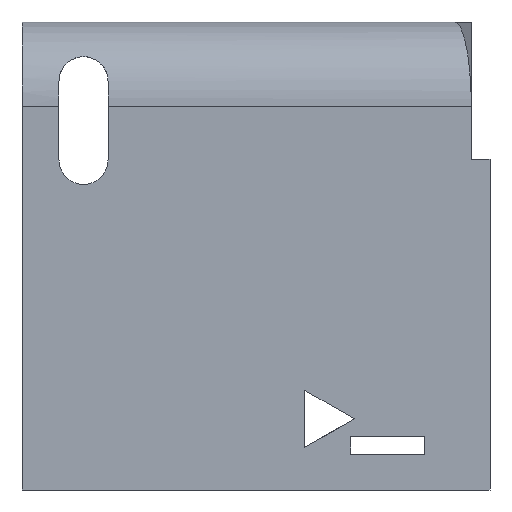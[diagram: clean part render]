
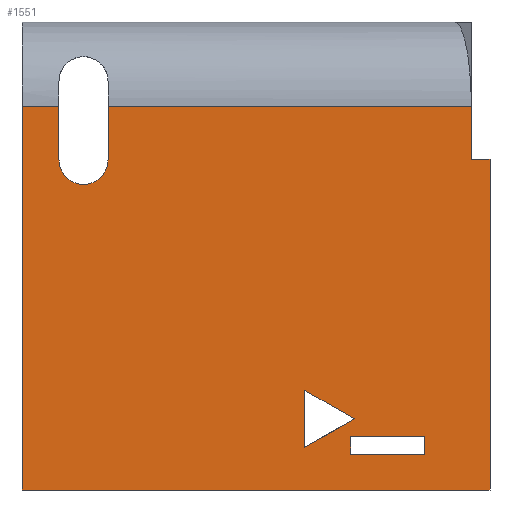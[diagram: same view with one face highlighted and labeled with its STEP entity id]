
A CAD part, left-side view. The second image highlights one B-rep face of the part: STEP entity #1551.
In plain terms, the highlighted planar face has unit normal (-1, 0, 0).
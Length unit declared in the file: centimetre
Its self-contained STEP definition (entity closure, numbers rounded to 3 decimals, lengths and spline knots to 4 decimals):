
#11 = VECTOR ( 'NONE', #434, 100. ) ;
#13 = VERTEX_POINT ( 'NONE', #841 ) ;
#36 = VERTEX_POINT ( 'NONE', #446 ) ;
#37 = VECTOR ( 'NONE', #215, 100. ) ;
#44 = DIRECTION ( 'NONE',  ( 0., 1., 0. ) ) ;
#45 = LINE ( 'NONE', #1558, #1277 ) ;
#57 = ORIENTED_EDGE ( 'NONE', *, *, #1738, .T. ) ;
#74 = LINE ( 'NONE', #474, #916 ) ;
#79 = DIRECTION ( 'NONE',  ( 0., 0., -1. ) ) ;
#96 = EDGE_CURVE ( 'NONE', #937, #1032, #699, .T. ) ;
#97 = CARTESIAN_POINT ( 'NONE',  ( 0., 139.0088, 114.3021 ) ) ;
#102 = DIRECTION ( 'NONE',  ( 1., 0., 0. ) ) ;
#107 = LINE ( 'NONE', #1470, #509 ) ;
#121 = VERTEX_POINT ( 'NONE', #1244 ) ;
#125 = CARTESIAN_POINT ( 'NONE',  ( 0., 868.5529, 705.3066 ) ) ;
#130 = CARTESIAN_POINT ( 'NONE',  ( 0., 1000., 818.6513 ) ) ;
#142 = CARTESIAN_POINT ( 'NONE',  ( 0., 297.4939, 114.3021 ) ) ;
#152 = ORIENTED_EDGE ( 'NONE', *, *, #1589, .F. ) ;
#175 = VERTEX_POINT ( 'NONE', #664 ) ;
#206 = VECTOR ( 'NONE', #541, 100. ) ;
#207 = LINE ( 'NONE', #1721, #1605 ) ;
#211 = EDGE_CURVE ( 'NONE', #13, #121, #1046, .T. ) ;
#215 = DIRECTION ( 'NONE',  ( 0., 0., -1. ) ) ;
#244 = CARTESIAN_POINT ( 'NONE',  ( 0., 1000., 1000. ) ) ;
#247 = DIRECTION ( 'NONE',  ( 0., 0., 1. ) ) ;
#252 = DIRECTION ( 'NONE',  ( 0., 0., -1. ) ) ;
#258 = VERTEX_POINT ( 'NONE', #840 ) ;
#260 = EDGE_CURVE ( 'NONE', #1032, #277, #45, .T. ) ;
#269 = CARTESIAN_POINT ( 'NONE',  ( 0., 395.6644, 212.8369 ) ) ;
#277 = VERTEX_POINT ( 'NONE', #445 ) ;
#278 = LINE ( 'NONE', #1258, #773 ) ;
#293 = VECTOR ( 'NONE', #661, 100. ) ;
#302 = EDGE_CURVE ( 'NONE', #277, #937, #975, .T. ) ;
#335 = CARTESIAN_POINT ( 'NONE',  ( 0., 1000., 1000. ) ) ;
#336 = DIRECTION ( 'NONE',  ( 0., 0., 1. ) ) ;
#392 = CARTESIAN_POINT ( 'NONE',  ( 0., 816.0833, 705.3066 ) ) ;
#400 = DIRECTION ( 'NONE',  ( 0., 0., -1. ) ) ;
#434 = DIRECTION ( 'NONE',  ( 0., 0.868, 0.497 ) ) ;
#436 = EDGE_CURVE ( 'NONE', #36, #1312, #885, .T. ) ;
#445 = CARTESIAN_POINT ( 'NONE',  ( 0., 289.8513, 152.2142 ) ) ;
#446 = CARTESIAN_POINT ( 'NONE',  ( 0., 0., 706.8234 ) ) ;
#450 = CARTESIAN_POINT ( 'NONE',  ( 0., 40.0355, 818.6513 ) ) ;
#453 = DIRECTION ( 'NONE',  ( 0., -1., 0. ) ) ;
#455 = EDGE_CURVE ( 'NONE', #1744, #566, #207, .T. ) ;
#464 = VECTOR ( 'NONE', #1326, 100. ) ;
#471 = VERTEX_POINT ( 'NONE', #639 ) ;
#474 = CARTESIAN_POINT ( 'NONE',  ( 0., 297.4939, 76.2825 ) ) ;
#493 = ORIENTED_EDGE ( 'NONE', *, *, #552, .T. ) ;
#497 = CARTESIAN_POINT ( 'NONE',  ( 0., 0., 1000. ) ) ;
#509 = VECTOR ( 'NONE', #1748, 100. ) ;
#528 = CARTESIAN_POINT ( 'NONE',  ( 0., 816.0833, 818.6513 ) ) ;
#541 = DIRECTION ( 'NONE',  ( 0., -1., 0. ) ) ;
#552 = EDGE_CURVE ( 'NONE', #258, #1229, #107, .T. ) ;
#560 = CARTESIAN_POINT ( 'NONE',  ( 0., 395.6644, 212.8369 ) ) ;
#566 = VERTEX_POINT ( 'NONE', #1191 ) ;
#577 = VERTEX_POINT ( 'NONE', #1205 ) ;
#634 = VECTOR ( 'NONE', #453, 100. ) ;
#639 = CARTESIAN_POINT ( 'NONE',  ( 0., 1000., 818.6513 ) ) ;
#650 = LINE ( 'NONE', #130, #293 ) ;
#661 = DIRECTION ( 'NONE',  ( 0., 1., 0. ) ) ;
#663 = PLANE ( 'NONE',  #1378 ) ;
#664 = CARTESIAN_POINT ( 'NONE',  ( 0., 139.0088, 76.2825 ) ) ;
#680 = ORIENTED_EDGE ( 'NONE', *, *, #812, .F. ) ;
#689 = CARTESIAN_POINT ( 'NONE',  ( 0., 1000., 0. ) ) ;
#699 = LINE ( 'NONE', #560, #734 ) ;
#722 = ORIENTED_EDGE ( 'NONE', *, *, #260, .F. ) ;
#734 = VECTOR ( 'NONE', #400, 100. ) ;
#773 = VECTOR ( 'NONE', #1389, 100. ) ;
#780 = LINE ( 'NONE', #1595, #464 ) ;
#782 = LINE ( 'NONE', #1207, #206 ) ;
#798 = VECTOR ( 'NONE', #44, 100. ) ;
#812 = EDGE_CURVE ( 'NONE', #1075, #577, #74, .T. ) ;
#818 = CARTESIAN_POINT ( 'NONE',  ( 0., 868.5529, 705.3066 ) ) ;
#840 = CARTESIAN_POINT ( 'NONE',  ( 0., 40.0355, 706.8234 ) ) ;
#841 = CARTESIAN_POINT ( 'NONE',  ( 0., 816.0833, 705.3066 ) ) ;
#857 = ORIENTED_EDGE ( 'NONE', *, *, #1302, .T. ) ;
#864 = ORIENTED_EDGE ( 'NONE', *, *, #96, .F. ) ;
#882 = ORIENTED_EDGE ( 'NONE', *, *, #1037, .T. ) ;
#885 = LINE ( 'NONE', #497, #1388 ) ;
#903 = EDGE_CURVE ( 'NONE', #258, #36, #780, .T. ) ;
#916 = VECTOR ( 'NONE', #79, 100. ) ;
#922 = LINE ( 'NONE', #1466, #1094 ) ;
#930 = FACE_BOUND ( 'NONE', #1093, .T. ) ;
#936 = CARTESIAN_POINT ( 'NONE',  ( 0., 395.6644, 90.8888 ) ) ;
#937 = VERTEX_POINT ( 'NONE', #269 ) ;
#975 = LINE ( 'NONE', #1005, #11 ) ;
#978 = VERTEX_POINT ( 'NONE', #689 ) ;
#1005 = CARTESIAN_POINT ( 'NONE',  ( 0., 289.8513, 152.2142 ) ) ;
#1024 = ORIENTED_EDGE ( 'NONE', *, *, #903, .F. ) ;
#1028 = EDGE_CURVE ( 'NONE', #978, #1312, #782, .T. ) ;
#1029 = LINE ( 'NONE', #335, #37 ) ;
#1032 = VERTEX_POINT ( 'NONE', #936 ) ;
#1033 = ORIENTED_EDGE ( 'NONE', *, *, #436, .F. ) ;
#1037 = EDGE_CURVE ( 'NONE', #1229, #1300, #650, .T. ) ;
#1046 = CIRCLE ( 'NONE', #1677, 52.4696 ) ;
#1052 = CARTESIAN_POINT ( 'NONE',  ( 0., 0., 0. ) ) ;
#1075 = VERTEX_POINT ( 'NONE', #142 ) ;
#1093 = EDGE_LOOP ( 'NONE', ( #1550, #722, #864 ) ) ;
#1094 = VECTOR ( 'NONE', #1610, 100. ) ;
#1112 = LINE ( 'NONE', #1370, #634 ) ;
#1135 = ORIENTED_EDGE ( 'NONE', *, *, #1028, .T. ) ;
#1153 = CARTESIAN_POINT ( 'NONE',  ( 0., 921.0225, 705.3066 ) ) ;
#1191 = CARTESIAN_POINT ( 'NONE',  ( 0., 921.0225, 818.6513 ) ) ;
#1205 = CARTESIAN_POINT ( 'NONE',  ( 0., 297.4939, 76.2825 ) ) ;
#1207 = CARTESIAN_POINT ( 'NONE',  ( 0., 1000., 0. ) ) ;
#1209 = DIRECTION ( 'NONE',  ( 1., 0., 0. ) ) ;
#1212 = ORIENTED_EDGE ( 'NONE', *, *, #1676, .T. ) ;
#1213 = LINE ( 'NONE', #392, #1411 ) ;
#1214 = ORIENTED_EDGE ( 'NONE', *, *, #1431, .T. ) ;
#1229 = VERTEX_POINT ( 'NONE', #450 ) ;
#1242 = EDGE_LOOP ( 'NONE', ( #1503, #152, #680, #1446 ) ) ;
#1244 = CARTESIAN_POINT ( 'NONE',  ( 0., 868.5529, 652.837 ) ) ;
#1258 = CARTESIAN_POINT ( 'NONE',  ( 0., 139.0088, 114.3021 ) ) ;
#1277 = VECTOR ( 'NONE', #1386, 100. ) ;
#1300 = VERTEX_POINT ( 'NONE', #528 ) ;
#1302 = EDGE_CURVE ( 'NONE', #121, #1744, #1489, .T. ) ;
#1311 = DIRECTION ( 'NONE',  ( 0., 0., -1. ) ) ;
#1312 = VERTEX_POINT ( 'NONE', #1052 ) ;
#1326 = DIRECTION ( 'NONE',  ( 0., -1., 0. ) ) ;
#1370 = CARTESIAN_POINT ( 'NONE',  ( 0., 139.0088, 76.2825 ) ) ;
#1378 = AXIS2_PLACEMENT_3D ( 'NONE', #244, #1209, #252 ) ;
#1386 = DIRECTION ( 'NONE',  ( 0., -0.865, 0.501 ) ) ;
#1388 = VECTOR ( 'NONE', #1311, 100. ) ;
#1389 = DIRECTION ( 'NONE',  ( 0., 1., 0. ) ) ;
#1393 = VERTEX_POINT ( 'NONE', #97 ) ;
#1395 = CARTESIAN_POINT ( 'NONE',  ( 0., 1000., 818.6513 ) ) ;
#1411 = VECTOR ( 'NONE', #1630, 100. ) ;
#1431 = EDGE_CURVE ( 'NONE', #1300, #13, #1213, .T. ) ;
#1446 = ORIENTED_EDGE ( 'NONE', *, *, #1501, .F. ) ;
#1466 = CARTESIAN_POINT ( 'NONE',  ( 0., 139.0088, 76.2825 ) ) ;
#1470 = CARTESIAN_POINT ( 'NONE',  ( 0., 40.0355, 706.8234 ) ) ;
#1473 = FACE_OUTER_BOUND ( 'NONE', #1710, .T. ) ;
#1478 = DIRECTION ( 'NONE',  ( 1., 0., 0. ) ) ;
#1483 = FACE_BOUND ( 'NONE', #1242, .T. ) ;
#1489 = CIRCLE ( 'NONE', #1725, 52.4696 ) ;
#1501 = EDGE_CURVE ( 'NONE', #1393, #1075, #278, .T. ) ;
#1503 = ORIENTED_EDGE ( 'NONE', *, *, #1542, .F. ) ;
#1515 = ORIENTED_EDGE ( 'NONE', *, *, #455, .T. ) ;
#1530 = LINE ( 'NONE', #1395, #798 ) ;
#1542 = EDGE_CURVE ( 'NONE', #175, #1393, #922, .T. ) ;
#1550 = ORIENTED_EDGE ( 'NONE', *, *, #302, .F. ) ;
#1551 = ADVANCED_FACE ( 'NONE', ( #930, #1483, #1473 ), #663, .F. ) ;
#1558 = CARTESIAN_POINT ( 'NONE',  ( 0., 395.6644, 90.8888 ) ) ;
#1589 = EDGE_CURVE ( 'NONE', #577, #175, #1112, .T. ) ;
#1595 = CARTESIAN_POINT ( 'NONE',  ( 0., 40.0355, 706.8234 ) ) ;
#1605 = VECTOR ( 'NONE', #336, 100. ) ;
#1610 = DIRECTION ( 'NONE',  ( 0., 0., 1. ) ) ;
#1611 = DIRECTION ( 'NONE',  ( 0., 0., 1. ) ) ;
#1617 = ORIENTED_EDGE ( 'NONE', *, *, #211, .T. ) ;
#1630 = DIRECTION ( 'NONE',  ( 0., 0., -1. ) ) ;
#1676 = EDGE_CURVE ( 'NONE', #566, #471, #1530, .T. ) ;
#1677 = AXIS2_PLACEMENT_3D ( 'NONE', #818, #102, #1611 ) ;
#1710 = EDGE_LOOP ( 'NONE', ( #1024, #493, #882, #1214, #1617, #857, #1515, #1212, #57, #1135, #1033 ) ) ;
#1721 = CARTESIAN_POINT ( 'NONE',  ( 0., 921.0225, 873.4371 ) ) ;
#1725 = AXIS2_PLACEMENT_3D ( 'NONE', #125, #1478, #247 ) ;
#1738 = EDGE_CURVE ( 'NONE', #471, #978, #1029, .T. ) ;
#1744 = VERTEX_POINT ( 'NONE', #1153 ) ;
#1748 = DIRECTION ( 'NONE',  ( 0., 0., 1. ) ) ;
